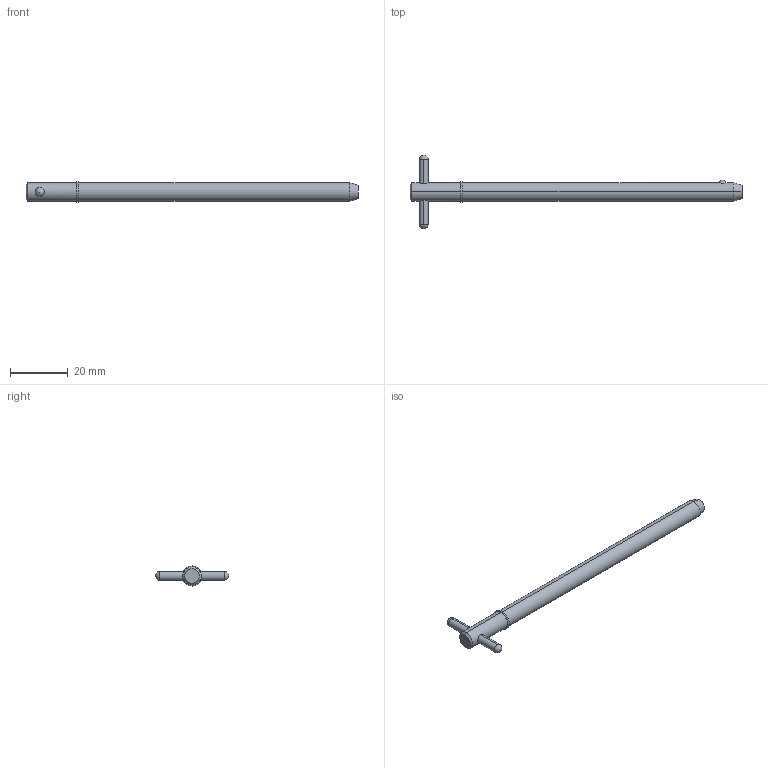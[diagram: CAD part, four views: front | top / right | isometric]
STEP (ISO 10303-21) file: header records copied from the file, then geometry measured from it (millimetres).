
FILE_DESCRIPTION (( 'STEP AP203' ), '1' );
FILE_NAME ('33018.W2535.step', '2024-11-19T17:08:47', ( '' ), ( '' ), 'SwSTEP 2.0', 'SolidWorks 2019', '' );
FILE_SCHEMA (( 'CONFIG_CONTROL_DESIGN' ));
Length unit declared in the file: millimetre
Products named in the file (3): Part2_33018.W2535; Part1_33018.W2535; 33018.W2535
Assembly tree (2 placements, depth 2):
  33018.W2535
    Part1_33018.W2535
    Part2_33018.W2535
Bounding box: 115.11 x 25.4 x 6.99 mm (x, y, z)
Volume: 3770.7 mm3; surface area: 2645.9 mm2
Topology: 2 solids, 2 shells, 22 faces, 47 edges, 30 vertices
Faces by surface type: cylinder 10, sphere 4, cone 4, plane 4
Entity records: 993 total; most frequent: CARTESIAN_POINT 236, DIRECTION 110, ORIENTED_EDGE 82, AXIS2_PLACEMENT_3D 48, EDGE_CURVE 41, EDGE_LOOP 27, PERSON_AND_ORGANIZATION 26, VERTEX_POINT 26
